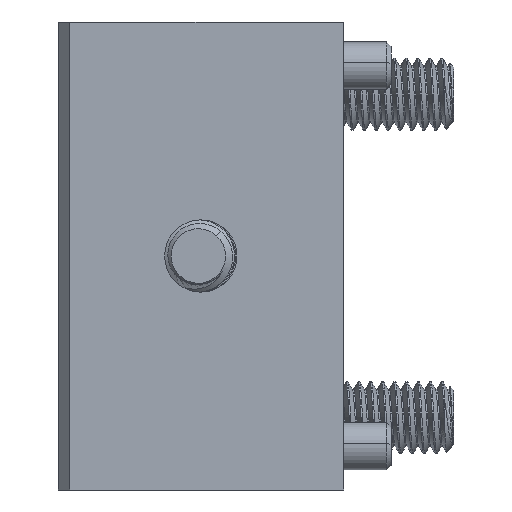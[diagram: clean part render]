
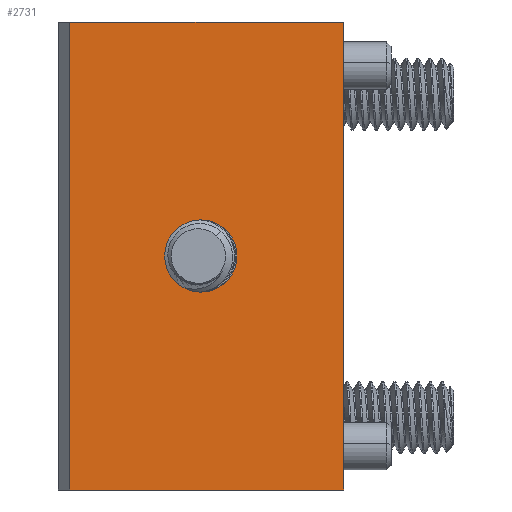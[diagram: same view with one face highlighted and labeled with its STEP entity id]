
A CAD part, left-side view. The second image highlights one B-rep face of the part: STEP entity #2731.
In plain terms, the highlighted planar face has unit normal (-1, 0, 0).
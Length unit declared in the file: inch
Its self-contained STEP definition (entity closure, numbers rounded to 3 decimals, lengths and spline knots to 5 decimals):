
#2675 = DIRECTION ( 'NONE',  ( 0., 1., 0. ) ) ;
#2731 = ADVANCED_FACE ( 'NONE', ( #14366, #40075 ), #60566, .F. ) ;
#3825 = VERTEX_POINT ( 'NONE', #58322 ) ;
#4849 = CARTESIAN_POINT ( 'NONE',  ( -0.4, 0.05, 0.615 ) ) ;
#5482 = DIRECTION ( 'NONE',  ( 0., 0., -1. ) ) ;
#7506 = LINE ( 'NONE', #34390, #18826 ) ;
#8630 = ORIENTED_EDGE ( 'NONE', *, *, #29004, .T. ) ;
#9326 = VECTOR ( 'NONE', #50432, 39.37008 ) ;
#9886 = DIRECTION ( 'NONE',  ( 0., -1., 0. ) ) ;
#11949 = CARTESIAN_POINT ( 'NONE',  ( -0.4, 0.05, 0.615 ) ) ;
#13741 = EDGE_CURVE ( 'NONE', #48176, #3825, #47874, .T. ) ;
#14366 = FACE_BOUND ( 'NONE', #23995, .T. ) ;
#15110 = EDGE_CURVE ( 'NONE', #21004, #51392, #47775, .T. ) ;
#18826 = VECTOR ( 'NONE', #5482, 39.37008 ) ;
#20114 = ORIENTED_EDGE ( 'NONE', *, *, #62053, .T. ) ;
#20736 = CARTESIAN_POINT ( 'NONE',  ( -0.4, -0.295, 0. ) ) ;
#21004 = VERTEX_POINT ( 'NONE', #4849 ) ;
#22563 = ORIENTED_EDGE ( 'NONE', *, *, #15110, .F. ) ;
#22637 = CARTESIAN_POINT ( 'NONE',  ( -0.4, -0.295, 0. ) ) ;
#23515 = CARTESIAN_POINT ( 'NONE',  ( -0.4, -0.67, 0.615 ) ) ;
#23995 = EDGE_LOOP ( 'NONE', ( #47504, #20114 ) ) ;
#24876 = ORIENTED_EDGE ( 'NONE', *, *, #13741, .T. ) ;
#25625 = DIRECTION ( 'NONE',  ( 0., 0., -1. ) ) ;
#26750 = CARTESIAN_POINT ( 'NONE',  ( -0.4, 0.05, 0.615 ) ) ;
#27069 = CARTESIAN_POINT ( 'NONE',  ( -0.4, -0.295, 0.095 ) ) ;
#27512 = DIRECTION ( 'NONE',  ( 0., 0., -1. ) ) ;
#28353 = CIRCLE ( 'NONE', #61802, 0.095 ) ;
#28771 = CARTESIAN_POINT ( 'NONE',  ( -0.4, 0.05, -0.615 ) ) ;
#29004 = EDGE_CURVE ( 'NONE', #21004, #48176, #33492, .T. ) ;
#29102 = CIRCLE ( 'NONE', #53503, 0.095 ) ;
#31587 = DIRECTION ( 'NONE',  ( 1., 0., 0. ) ) ;
#33492 = LINE ( 'NONE', #11949, #59202 ) ;
#34390 = CARTESIAN_POINT ( 'NONE',  ( -0.4, -0.67, 0.615 ) ) ;
#37222 = AXIS2_PLACEMENT_3D ( 'NONE', #26750, #31587, #2675 ) ;
#38835 = CARTESIAN_POINT ( 'NONE',  ( -0.4, 0.05, 0.615 ) ) ;
#40075 = FACE_OUTER_BOUND ( 'NONE', #46990, .T. ) ;
#43651 = EDGE_CURVE ( 'NONE', #51392, #3825, #7506, .T. ) ;
#45182 = EDGE_CURVE ( 'NONE', #61983, #60344, #29102, .T. ) ;
#45548 = CARTESIAN_POINT ( 'NONE',  ( -0.4, 0.05, -0.615 ) ) ;
#45783 = DIRECTION ( 'NONE',  ( 0., 0., -1. ) ) ;
#45878 = CARTESIAN_POINT ( 'NONE',  ( -0.4, -0.295, -0.095 ) ) ;
#46990 = EDGE_LOOP ( 'NONE', ( #24876, #51948, #22563, #8630 ) ) ;
#47504 = ORIENTED_EDGE ( 'NONE', *, *, #45182, .T. ) ;
#47775 = LINE ( 'NONE', #38835, #57610 ) ;
#47874 = LINE ( 'NONE', #45548, #9326 ) ;
#48176 = VERTEX_POINT ( 'NONE', #28771 ) ;
#50432 = DIRECTION ( 'NONE',  ( 0., -1., 0. ) ) ;
#51392 = VERTEX_POINT ( 'NONE', #23515 ) ;
#51948 = ORIENTED_EDGE ( 'NONE', *, *, #43651, .F. ) ;
#53503 = AXIS2_PLACEMENT_3D ( 'NONE', #20736, #54579, #25625 ) ;
#54579 = DIRECTION ( 'NONE',  ( 1., 0., 0. ) ) ;
#56436 = DIRECTION ( 'NONE',  ( 1., 0., 0. ) ) ;
#57610 = VECTOR ( 'NONE', #9886, 39.37008 ) ;
#58322 = CARTESIAN_POINT ( 'NONE',  ( -0.4, -0.67, -0.615 ) ) ;
#59202 = VECTOR ( 'NONE', #45783, 39.37008 ) ;
#60344 = VERTEX_POINT ( 'NONE', #27069 ) ;
#60566 = PLANE ( 'NONE',  #37222 ) ;
#61802 = AXIS2_PLACEMENT_3D ( 'NONE', #22637, #56436, #27512 ) ;
#61983 = VERTEX_POINT ( 'NONE', #45878 ) ;
#62053 = EDGE_CURVE ( 'NONE', #60344, #61983, #28353, .T. ) ;
